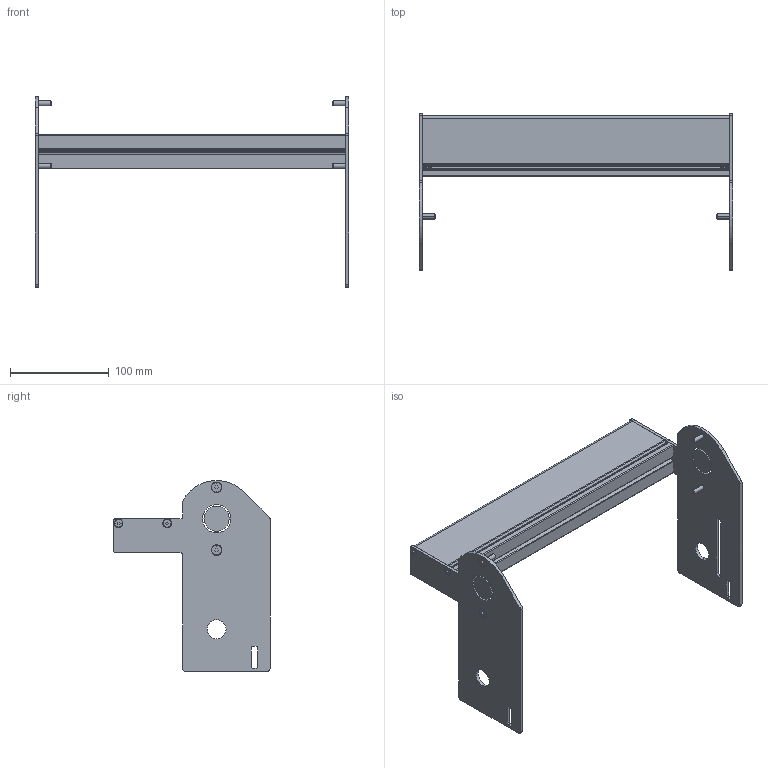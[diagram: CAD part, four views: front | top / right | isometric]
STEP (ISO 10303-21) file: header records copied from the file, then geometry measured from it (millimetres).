
FILE_DESCRIPTION((''),'2;1');
FILE_NAME('350712-12_ASM','2023-03-22T',('jenni.wallner'),(''),'PRO/ENGINEER BY PARAMETRIC TECHNOLOGY CORPORATION, 2012420','PRO/ENGINEER BY PARAMETRIC TECHNOLOGY CORPORATION, 2012420','');
FILE_SCHEMA(('CONFIG_CONTROL_DESIGN'));
Length unit declared in the file: inch
Products named in the file (6): 350669-12; 350667; 350668; 930412M; 930516M; 350712-12_ASM
Assembly tree (11 placements, depth 2):
  350712-12_ASM
    350669-12
    350667
    350668
    930412M  x4
    930516M  x4
Bounding box: 317.14 x 158.09 x 193.27 mm (x, y, z)
Volume: 358821.6 mm3; surface area: 238380 mm2
Topology: 11 solids, 11 shells, 334 faces, 872 edges, 568 vertices
Faces by surface type: plane 150, cylinder 136, cone 48
Entity records: 7775 total; most frequent: DIRECTION 1396, CARTESIAN_POINT 1323, ORIENTED_EDGE 1288, EDGE_CURVE 644, AXIS2_PLACEMENT_3D 505, VERTEX_POINT 424, VECTOR 386, LINE 386
